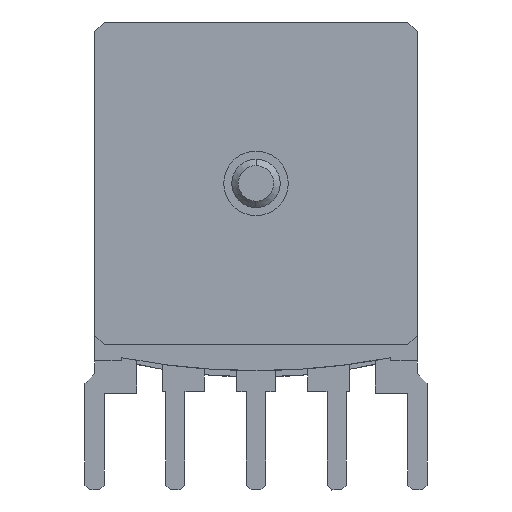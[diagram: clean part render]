
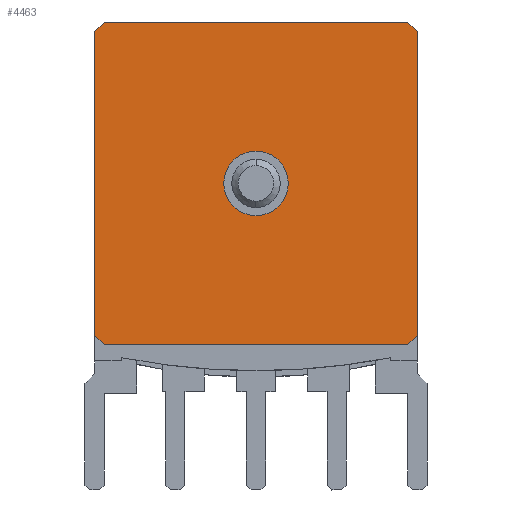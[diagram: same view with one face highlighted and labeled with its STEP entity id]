
A CAD part, front view. The second image highlights one B-rep face of the part: STEP entity #4463.
In plain terms, the highlighted planar face has unit normal (0, -1, 0).
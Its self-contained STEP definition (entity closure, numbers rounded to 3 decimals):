
#293 = LINE ( 'NONE', #298, #296 ) ;
#296 = VECTOR ( 'NONE', #302, 1000. ) ;
#298 = CARTESIAN_POINT ( 'NONE',  ( 5.002, -6.65, 1.5 ) ) ;
#302 = DIRECTION ( 'NONE',  ( 0., 0., 1. ) ) ;
#347 = CARTESIAN_POINT ( 'NONE',  ( 4.702, -6.65, 11.5 ) ) ;
#348 = DIRECTION ( 'NONE',  ( 0., 0., -1. ) ) ;
#349 = VECTOR ( 'NONE', #348, 1000. ) ;
#350 = LINE ( 'NONE', #347, #354 ) ;
#351 = CARTESIAN_POINT ( 'NONE',  ( -4.998, -6.65, 11.2 ) ) ;
#352 = LINE ( 'NONE', #351, #349 ) ;
#353 = DIRECTION ( 'NONE',  ( -1., 0., 0. ) ) ;
#354 = VECTOR ( 'NONE', #353, 1000. ) ;
#470 = DIRECTION ( 'NONE',  ( 0., 1., 0. ) ) ;
#480 = DIRECTION ( 'NONE',  ( 0., 0., 1. ) ) ;
#481 = AXIS2_PLACEMENT_3D ( 'NONE', #504, #470, #480 ) ;
#503 = CIRCLE ( 'NONE', #481, 1. ) ;
#504 = CARTESIAN_POINT ( 'NONE',  ( 0., -6.65, 6.5 ) ) ;
#518 = CARTESIAN_POINT ( 'NONE',  ( -4.998, -6.65, 1.8 ) ) ;
#519 = DIRECTION ( 'NONE',  ( 0.707, 0., 0.707 ) ) ;
#520 = CARTESIAN_POINT ( 'NONE',  ( 4.702, -6.65, 1.5 ) ) ;
#524 = PLANE ( 'NONE',  #535 ) ;
#525 = CARTESIAN_POINT ( 'NONE',  ( -4.998, -6.65, 1.5 ) ) ;
#529 = VECTOR ( 'NONE', #519, 1000. ) ;
#533 = DIRECTION ( 'NONE',  ( 0., 0., -1. ) ) ;
#534 = DIRECTION ( 'NONE',  ( 0., -1., 0. ) ) ;
#535 = AXIS2_PLACEMENT_3D ( 'NONE', #525, #534, #533 ) ;
#538 = LINE ( 'NONE', #520, #529 ) ;
#539 = FACE_OUTER_BOUND ( 'NONE', #4466, .T. ) ;
#541 = FACE_BOUND ( 'NONE', #4451, .T. ) ;
#563 = CARTESIAN_POINT ( 'NONE',  ( 5.002, -6.65, 1.8 ) ) ;
#574 = CARTESIAN_POINT ( 'NONE',  ( -4.698, -6.65, 11.5 ) ) ;
#575 = CARTESIAN_POINT ( 'NONE',  ( 4.702, -6.65, 1.5 ) ) ;
#577 = CARTESIAN_POINT ( 'NONE',  ( 5.002, -6.65, 11.2 ) ) ;
#579 = CARTESIAN_POINT ( 'NONE',  ( -4.698, -6.65, 1.5 ) ) ;
#2907 = CARTESIAN_POINT ( 'NONE',  ( 0., -6.65, 5.5 ) ) ;
#2912 = CARTESIAN_POINT ( 'NONE',  ( 0., -6.65, 7.5 ) ) ;
#2915 = CIRCLE ( 'NONE', #3013, 1. ) ;
#2948 = CARTESIAN_POINT ( 'NONE',  ( 0., -6.65, 6.5 ) ) ;
#2983 = DIRECTION ( 'NONE',  ( 0., 1., 0. ) ) ;
#3013 = AXIS2_PLACEMENT_3D ( 'NONE', #2948, #2983, #3016 ) ;
#3016 = DIRECTION ( 'NONE',  ( 0., 0., 1. ) ) ;
#4433 = EDGE_CURVE ( 'NONE', #6994, #6978, #503, .T. ) ;
#4440 = EDGE_CURVE ( 'NONE', #4475, #4471, #293, .T. ) ;
#4450 = ORIENTED_EDGE ( 'NONE', *, *, #4652, .T. ) ;
#4451 = EDGE_LOOP ( 'NONE', ( #4493, #7759 ) ) ;
#4452 = EDGE_CURVE ( 'NONE', #4645, #4482, #350, .T. ) ;
#4455 = ORIENTED_EDGE ( 'NONE', *, *, #4456, .T. ) ;
#4456 = EDGE_CURVE ( 'NONE', #4488, #4462, #352, .T. ) ;
#4458 = EDGE_CURVE ( 'NONE', #4479, #4475, #538, .T. ) ;
#4462 = VERTEX_POINT ( 'NONE', #518 ) ;
#4463 = ADVANCED_FACE ( 'NONE', ( #539, #541 ), #524, .T. ) ;
#4465 = ORIENTED_EDGE ( 'NONE', *, *, #4440, .T. ) ;
#4466 = EDGE_LOOP ( 'NONE', ( #4476, #4511, #4455, #4485, #4548, #4543, #4465, #4450 ) ) ;
#4471 = VERTEX_POINT ( 'NONE', #577 ) ;
#4475 = VERTEX_POINT ( 'NONE', #563 ) ;
#4476 = ORIENTED_EDGE ( 'NONE', *, *, #4452, .T. ) ;
#4479 = VERTEX_POINT ( 'NONE', #575 ) ;
#4480 = VERTEX_POINT ( 'NONE', #579 ) ;
#4482 = VERTEX_POINT ( 'NONE', #574 ) ;
#4485 = ORIENTED_EDGE ( 'NONE', *, *, #4487, .T. ) ;
#4486 = EDGE_CURVE ( 'NONE', #4480, #4479, #7786, .T. ) ;
#4487 = EDGE_CURVE ( 'NONE', #4462, #4480, #7772, .T. ) ;
#4488 = VERTEX_POINT ( 'NONE', #7756 ) ;
#4493 = ORIENTED_EDGE ( 'NONE', *, *, #4433, .T. ) ;
#4503 = EDGE_CURVE ( 'NONE', #4482, #4488, #4860, .T. ) ;
#4511 = ORIENTED_EDGE ( 'NONE', *, *, #4503, .T. ) ;
#4543 = ORIENTED_EDGE ( 'NONE', *, *, #4458, .T. ) ;
#4548 = ORIENTED_EDGE ( 'NONE', *, *, #4486, .T. ) ;
#4645 = VERTEX_POINT ( 'NONE', #6015 ) ;
#4652 = EDGE_CURVE ( 'NONE', #4471, #4645, #5949, .T. ) ;
#4824 = DIRECTION ( 'NONE',  ( -0.707, 0., -0.707 ) ) ;
#4825 = VECTOR ( 'NONE', #4824, 1000. ) ;
#4826 = CARTESIAN_POINT ( 'NONE',  ( -4.698, -6.65, 11.5 ) ) ;
#4860 = LINE ( 'NONE', #4826, #4825 ) ;
#4903 = DIRECTION ( 'NONE',  ( -0.707, 0., 0.707 ) ) ;
#4937 = VECTOR ( 'NONE', #4903, 1000. ) ;
#5949 = LINE ( 'NONE', #6018, #4937 ) ;
#6015 = CARTESIAN_POINT ( 'NONE',  ( 4.702, -6.65, 11.5 ) ) ;
#6018 = CARTESIAN_POINT ( 'NONE',  ( 5.002, -6.65, 11.2 ) ) ;
#6978 = VERTEX_POINT ( 'NONE', #2907 ) ;
#6994 = VERTEX_POINT ( 'NONE', #2912 ) ;
#7023 = EDGE_CURVE ( 'NONE', #6978, #6994, #2915, .T. ) ;
#7693 = DIRECTION ( 'NONE',  ( 0.707, 0., -0.707 ) ) ;
#7694 = VECTOR ( 'NONE', #7693, 1000. ) ;
#7705 = DIRECTION ( 'NONE',  ( 1., 0., 0. ) ) ;
#7706 = VECTOR ( 'NONE', #7705, 1000. ) ;
#7707 = CARTESIAN_POINT ( 'NONE',  ( -4.698, -6.65, 1.5 ) ) ;
#7748 = CARTESIAN_POINT ( 'NONE',  ( -4.998, -6.65, 1.8 ) ) ;
#7756 = CARTESIAN_POINT ( 'NONE',  ( -4.998, -6.65, 11.2 ) ) ;
#7759 = ORIENTED_EDGE ( 'NONE', *, *, #7023, .T. ) ;
#7772 = LINE ( 'NONE', #7748, #7694 ) ;
#7786 = LINE ( 'NONE', #7707, #7706 ) ;
